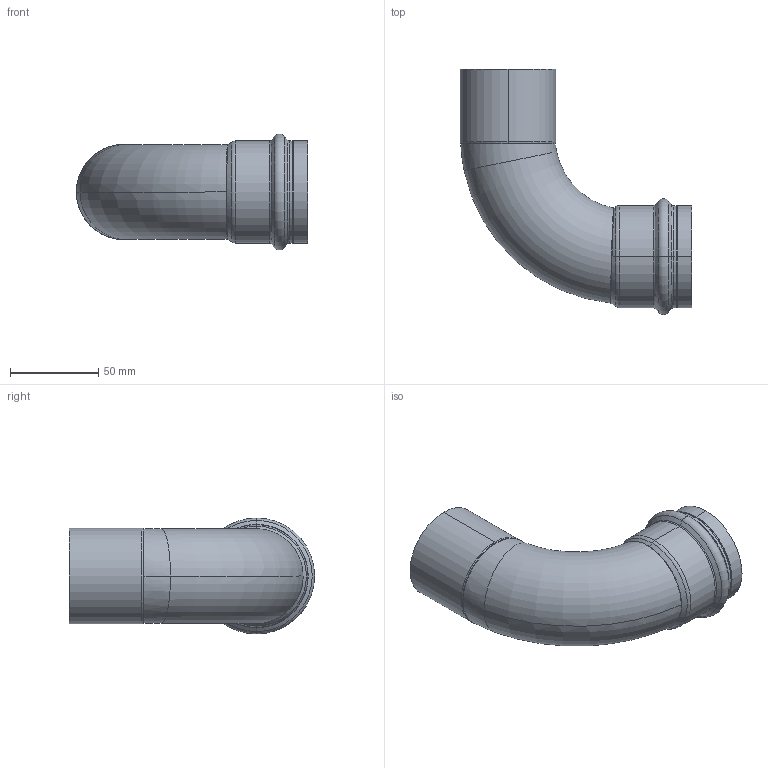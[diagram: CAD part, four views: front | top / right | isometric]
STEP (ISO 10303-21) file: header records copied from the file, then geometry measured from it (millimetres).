
FILE_DESCRIPTION (( 'STEP AP203' ), '1' );
FILE_NAME ('SP5001 Ø54.STEP', '2017-04-24T07:58:46', ( '' ), ( '' ), 'SwSTEP 2.0', 'SolidWorks 2016', '' );
FILE_SCHEMA (( 'CONFIG_CONTROL_DESIGN' ));
Length unit declared in the file: millimetre
Products named in the file (1): SP5001 ﾘ54
Bounding box: 131 x 138.83 x 65.66 mm (x, y, z)
Volume: 56927 mm3; surface area: 62464 mm2
Topology: 1 solids, 1 shells, 68 faces, 150 edges, 86 vertices
Faces by surface type: torus 24, cylinder 16, cone 14, bspline 10, plane 4
Entity records: 4058 total; most frequent: CARTESIAN_POINT 2516, DIRECTION 324, ORIENTED_EDGE 300, EDGE_CURVE 150, AXIS2_PLACEMENT_3D 147, CIRCLE 88, VERTEX_POINT 86, EDGE_LOOP 72
